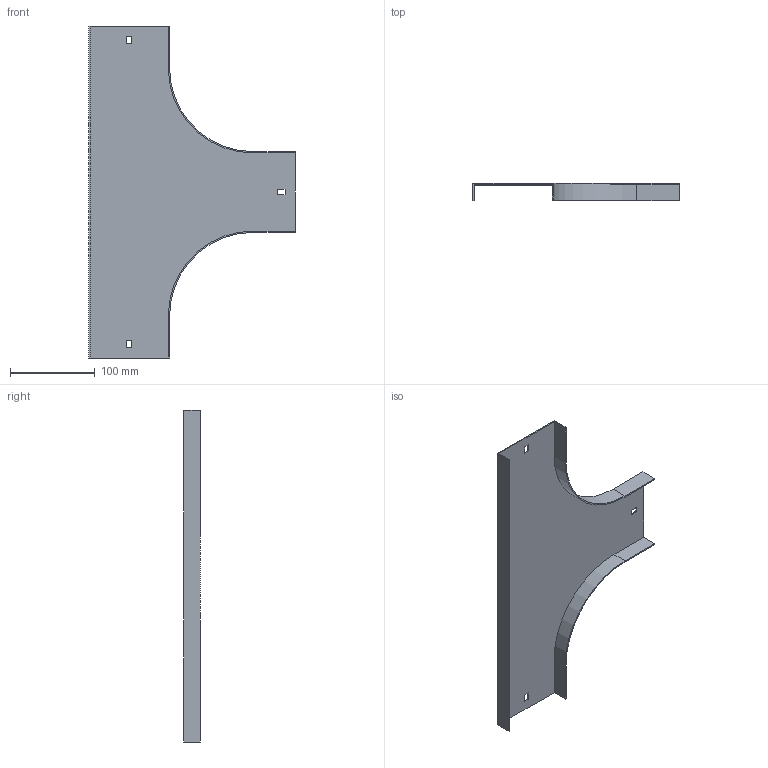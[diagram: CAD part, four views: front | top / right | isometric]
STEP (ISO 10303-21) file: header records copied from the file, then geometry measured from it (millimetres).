
FILE_DESCRIPTION (( 'STEP AP214' ), '1' );
FILE_NAME ('15N1R092.step', '2025-02-21T09:51:50', ( '' ), ( '' ), 'SwSTEP 2.0', 'SolidWorks 2023', '' );
FILE_SCHEMA (( 'AUTOMOTIVE_DESIGN' ));
Length unit declared in the file: millimetre
Products named in the file (1): 15N1R092
Bounding box: 244 x 20 x 392.5 mm (x, y, z)
Volume: 108575.8 mm3; surface area: 146856.4 mm2
Topology: 1 solids, 1 shells, 34 faces, 96 edges, 64 vertices
Faces by surface type: plane 30, cylinder 4
Entity records: 1123 total; most frequent: CARTESIAN_POINT 195, ORIENTED_EDGE 192, DIRECTION 174, EDGE_CURVE 96, VECTOR 88, LINE 88, VERTEX_POINT 64, AXIS2_PLACEMENT_3D 43
